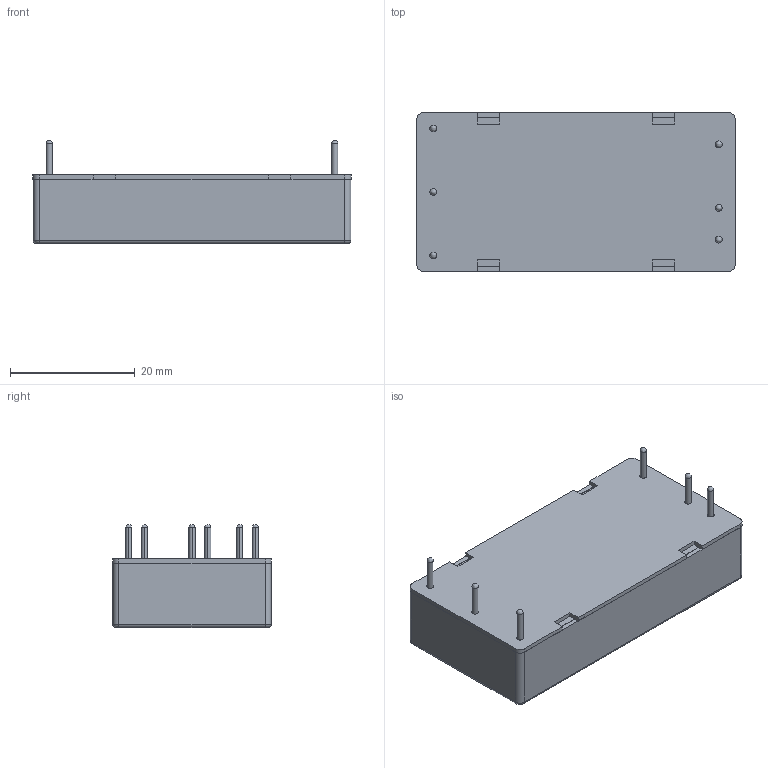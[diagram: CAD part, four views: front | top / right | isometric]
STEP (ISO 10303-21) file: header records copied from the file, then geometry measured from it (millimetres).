
FILE_DESCRIPTION (( 'STEP AP214' ), '1' );
FILE_NAME ('ten40win-24vout.STEP', '2016-03-31T15:03:18', ( '' ), ( '' ), 'SwSTEP 2.0', 'SolidWorks 2013', '' );
FILE_SCHEMA (( 'AUTOMOTIVE_DESIGN' ));
Length unit declared in the file: millimetre
Products named in the file (3): pin; case; ten40win-24vout
Assembly tree (2 placements, depth 2):
  ten40win-24vout
    case
    pin
Bounding box: 50.95 x 25.45 x 16.5 mm (x, y, z)
Volume: 3114.5 mm3; surface area: 8266.3 mm2
Topology: 7 solids, 7 shells, 124 faces, 316 edges, 188 vertices
Faces by surface type: plane 66, cylinder 44, bspline 10, torus 4
Entity records: 5253 total; most frequent: CARTESIAN_POINT 767, DIRECTION 630, ORIENTED_EDGE 600, EDGE_CURVE 300, AXIS2_PLACEMENT_3D 211, VECTOR 208, LINE 208, VERTEX_POINT 188
